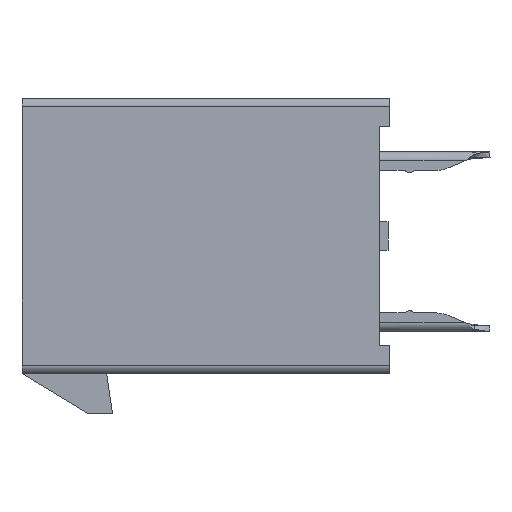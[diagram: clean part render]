
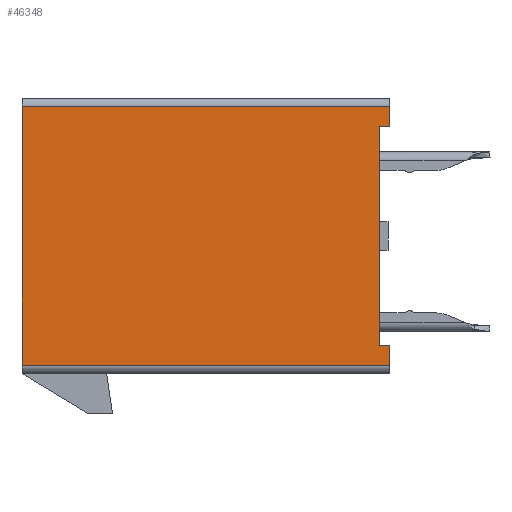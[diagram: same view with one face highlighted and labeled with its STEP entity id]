
A CAD part, left-side view. The second image highlights one B-rep face of the part: STEP entity #46348.
In plain terms, the highlighted planar face has unit normal (-1, 0, 0).
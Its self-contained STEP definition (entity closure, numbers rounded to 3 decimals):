
#1=DIRECTION('',(0.,0.,-1.));
#2=VECTOR('',#1,9.);
#3=CARTESIAN_POINT('',(-18.884,16.45,-0.3));
#4=LINE('',#3,#2);
#255=DIRECTION('',(0.,0.,-1.));
#256=VECTOR('',#255,0.7);
#257=CARTESIAN_POINT('',(-18.884,3.65,-0.3));
#258=LINE('',#257,#256);
#259=DIRECTION('',(0.,1.,0.));
#260=VECTOR('',#259,0.35);
#261=CARTESIAN_POINT('',(-18.884,3.65,-1.));
#262=LINE('',#261,#260);
#263=DIRECTION('',(0.,-1.,0.));
#264=VECTOR('',#263,0.35);
#265=CARTESIAN_POINT('',(-18.884,4.,-8.6));
#266=LINE('',#265,#264);
#267=DIRECTION('',(0.,0.,-1.));
#268=VECTOR('',#267,0.7);
#269=CARTESIAN_POINT('',(-18.884,3.65,-8.6));
#270=LINE('',#269,#268);
#275=DIRECTION('',(0.,1.,0.));
#276=VECTOR('',#275,12.8);
#277=CARTESIAN_POINT('',(-18.884,3.65,-0.3));
#278=LINE('',#277,#276);
#743=DIRECTION('',(0.,-1.,0.));
#744=VECTOR('',#743,12.8);
#745=CARTESIAN_POINT('',(-18.884,16.45,-9.3));
#746=LINE('',#745,#744);
#3898=DIRECTION('',(0.,0.,1.));
#3899=VECTOR('',#3898,7.6);
#3900=CARTESIAN_POINT('',(-18.884,4.,-8.6));
#3901=LINE('',#3900,#3899);
#37423=CARTESIAN_POINT('',(-18.884,16.45,-0.3));
#37424=CARTESIAN_POINT('',(-18.884,16.45,-9.3));
#37425=VERTEX_POINT('',#37423);
#37426=VERTEX_POINT('',#37424);
#41200=CARTESIAN_POINT('',(-18.884,3.65,-9.3));
#41201=VERTEX_POINT('',#41200);
#41202=CARTESIAN_POINT('',(-18.884,3.65,-8.6));
#41203=VERTEX_POINT('',#41202);
#41206=CARTESIAN_POINT('',(-18.884,3.65,-0.3));
#41207=VERTEX_POINT('',#41206);
#41208=CARTESIAN_POINT('',(-18.884,3.65,-1.));
#41209=VERTEX_POINT('',#41208);
#41210=CARTESIAN_POINT('',(-18.884,4.,-1.));
#41211=VERTEX_POINT('',#41210);
#41212=CARTESIAN_POINT('',(-18.884,4.,-8.6));
#41213=VERTEX_POINT('',#41212);
#46326=CARTESIAN_POINT('',(-18.884,16.45,-5.4));
#46327=DIRECTION('',(1.,0.,0.));
#46328=DIRECTION('',(0.,0.,-1.));
#46329=AXIS2_PLACEMENT_3D('',#46326,#46327,#46328);
#46330=PLANE('',#46329);
#46331=ORIENTED_EDGE('',*,*,#46081,.F.);
#46333=ORIENTED_EDGE('',*,*,#46332,.F.);
#46335=ORIENTED_EDGE('',*,*,#46334,.T.);
#46337=ORIENTED_EDGE('',*,*,#46336,.T.);
#46339=ORIENTED_EDGE('',*,*,#46338,.F.);
#46341=ORIENTED_EDGE('',*,*,#46340,.T.);
#46343=ORIENTED_EDGE('',*,*,#46342,.T.);
#46345=ORIENTED_EDGE('',*,*,#46344,.F.);
#46346=EDGE_LOOP('',(#46331,#46333,#46335,#46337,#46339,#46341,#46343,#46345));
#46347=FACE_OUTER_BOUND('',#46346,.F.);
#46348=ADVANCED_FACE('',(#46347),#46330,.F.);
#46081=EDGE_CURVE('',#37425,#37426,#4,.T.);
#46332=EDGE_CURVE('',#41207,#37425,#278,.T.);
#46334=EDGE_CURVE('',#41207,#41209,#258,.T.);
#46336=EDGE_CURVE('',#41209,#41211,#262,.T.);
#46338=EDGE_CURVE('',#41213,#41211,#3901,.T.);
#46340=EDGE_CURVE('',#41213,#41203,#266,.T.);
#46342=EDGE_CURVE('',#41203,#41201,#270,.T.);
#46344=EDGE_CURVE('',#37426,#41201,#746,.T.);
